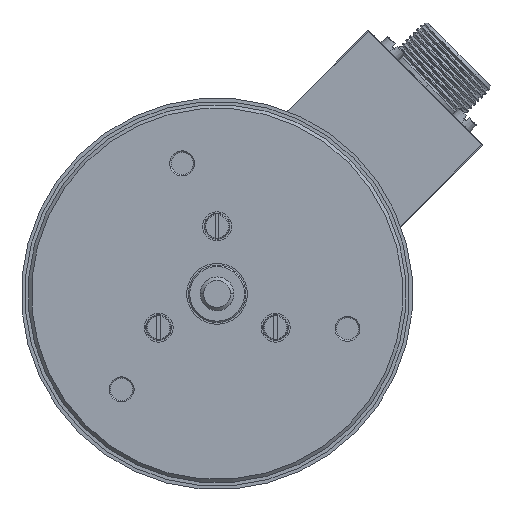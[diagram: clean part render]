
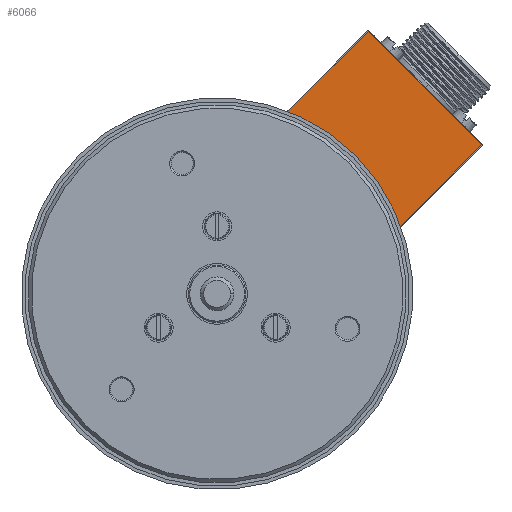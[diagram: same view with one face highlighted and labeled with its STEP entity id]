
A CAD part, left-side view. The second image highlights one B-rep face of the part: STEP entity #6066.
In plain terms, the highlighted planar face has unit normal (-1, 0, 0).
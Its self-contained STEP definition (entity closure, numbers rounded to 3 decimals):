
#97 = DIRECTION ( 'NONE',  ( 0., -0.707, 0.707 ) ) ;
#818 = CARTESIAN_POINT ( 'NONE',  ( 25.408, -10.747, 29.086 ) ) ;
#924 = VECTOR ( 'NONE', #2407, 1000. ) ;
#985 = CARTESIAN_POINT ( 'NONE',  ( 25.408, -23.187, 41.526 ) ) ;
#1344 = CARTESIAN_POINT ( 'NONE',  ( 25.408, 15.987, 19.181 ) ) ;
#1920 = CARTESIAN_POINT ( 'NONE',  ( 25.408, 6.09, 45.908 ) ) ;
#2053 = AXIS2_PLACEMENT_3D ( 'NONE', #4759, #12781, #5910 ) ;
#2159 = CARTESIAN_POINT ( 'NONE',  ( 25.408, -23.116, 41.455 ) ) ;
#2336 = DIRECTION ( 'NONE',  ( -1., 0., 0. ) ) ;
#2407 = DIRECTION ( 'NONE',  ( 0., 0.707, 0.707 ) ) ;
#2541 = DIRECTION ( 'NONE',  ( 0., -0.707, -0.707 ) ) ;
#2840 = VERTEX_POINT ( 'NONE', #9912 ) ;
#3767 = FACE_OUTER_BOUND ( 'NONE', #6282, .T. ) ;
#4042 = VERTEX_POINT ( 'NONE', #1920 ) ;
#4256 = CIRCLE ( 'NONE', #8499, 0.1 ) ;
#4759 = CARTESIAN_POINT ( 'NONE',  ( 25.408, -6.287, 58.426 ) ) ;
#5349 = AXIS2_PLACEMENT_3D ( 'NONE', #1344, #9392, #2541 ) ;
#5652 = CIRCLE ( 'NONE', #5349, 28.5 ) ;
#5881 = VECTOR ( 'NONE', #97, 1000. ) ;
#5897 = DIRECTION ( 'NONE',  ( 0., 0.707, -0.707 ) ) ;
#5910 = DIRECTION ( 'NONE',  ( 0., 0.707, 0.707 ) ) ;
#6066 = ADVANCED_FACE ( 'NONE', ( #3767 ), #8103, .F. ) ;
#6072 = VECTOR ( 'NONE', #5897, 1000. ) ;
#6282 = EDGE_LOOP ( 'NONE', ( #13082, #13096, #13220, #13263, #13452 ) ) ;
#6907 = VERTEX_POINT ( 'NONE', #7397 ) ;
#7397 = CARTESIAN_POINT ( 'NONE',  ( 25.408, -10.724, 29.122 ) ) ;
#8103 = PLANE ( 'NONE',  #2053 ) ;
#8499 = AXIS2_PLACEMENT_3D ( 'NONE', #9187, #2336, #10351 ) ;
#8539 = LINE ( 'NONE', #985, #5881 ) ;
#8765 = EDGE_CURVE ( 'NONE', #14151, #13211, #8539, .T. ) ;
#9034 = EDGE_CURVE ( 'NONE', #6907, #14151, #4256, .T. ) ;
#9058 = EDGE_CURVE ( 'NONE', #2840, #4042, #10176, .T. ) ;
#9098 = EDGE_CURVE ( 'NONE', #6907, #4042, #5652, .T. ) ;
#9187 = CARTESIAN_POINT ( 'NONE',  ( 25.408, -10.817, 29.156 ) ) ;
#9265 = CARTESIAN_POINT ( 'NONE',  ( 25.408, -6.216, 58.355 ) ) ;
#9392 = DIRECTION ( 'NONE',  ( -1., 0., 0. ) ) ;
#9912 = CARTESIAN_POINT ( 'NONE',  ( 25.408, -6.287, 58.285 ) ) ;
#10176 = LINE ( 'NONE', #12769, #6072 ) ;
#10351 = DIRECTION ( 'NONE',  ( 0., 0.707, 0.707 ) ) ;
#12769 = CARTESIAN_POINT ( 'NONE',  ( 25.408, -6.358, 58.355 ) ) ;
#12781 = DIRECTION ( 'NONE',  ( 1., 0., 0. ) ) ;
#12809 = LINE ( 'NONE', #9265, #924 ) ;
#13082 = ORIENTED_EDGE ( 'NONE', *, *, #14365, .T. ) ;
#13096 = ORIENTED_EDGE ( 'NONE', *, *, #9058, .T. ) ;
#13211 = VERTEX_POINT ( 'NONE', #2159 ) ;
#13220 = ORIENTED_EDGE ( 'NONE', *, *, #9098, .F. ) ;
#13263 = ORIENTED_EDGE ( 'NONE', *, *, #9034, .T. ) ;
#13452 = ORIENTED_EDGE ( 'NONE', *, *, #8765, .T. ) ;
#14151 = VERTEX_POINT ( 'NONE', #818 ) ;
#14365 = EDGE_CURVE ( 'NONE', #13211, #2840, #12809, .T. ) ;
